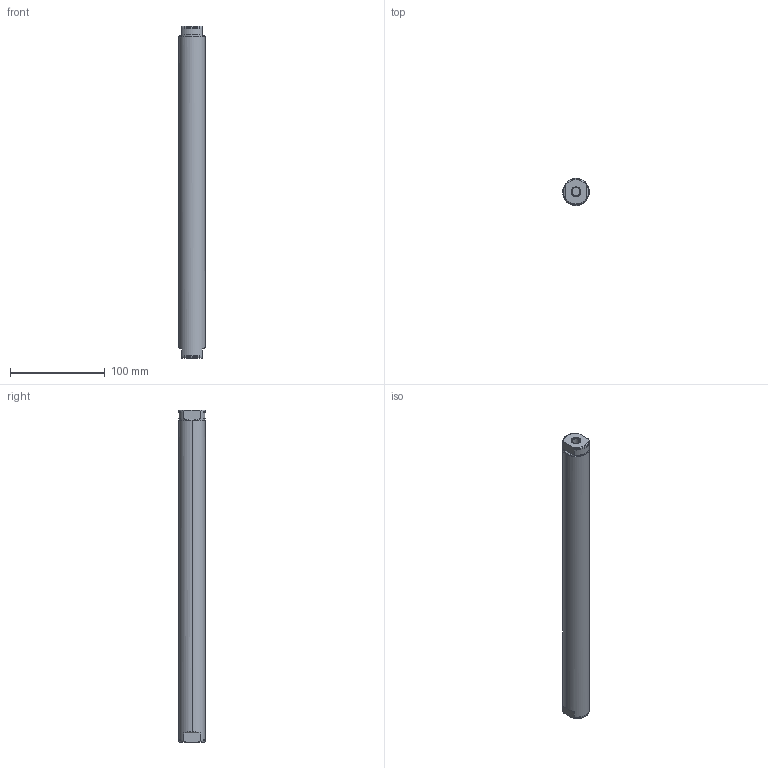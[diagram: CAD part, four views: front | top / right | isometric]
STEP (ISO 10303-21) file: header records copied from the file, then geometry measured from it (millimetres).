
FILE_DESCRIPTION (( 'STEP AP214' ), '1' );
FILE_NAME ('PL01-28x350!270.STEP', '2004-06-16T08:09:50', ( 'Mitarbeiter' ), ( 'Firma' ), 'SwSTEP 2.0', 'SolidWorks 2001287', '' );
FILE_SCHEMA (( 'AUTOMOTIVE_DESIGN' ));
Length unit declared in the file: millimetre
Products named in the file (1): PL01-28x350!270
Bounding box: 28 x 28 x 350 mm (x, y, z)
Volume: 212113.5 mm3; surface area: 32744.4 mm2
Topology: 1 solids, 1 shells, 41 faces, 104 edges, 68 vertices
Faces by surface type: plane 15, cylinder 10, torus 8, cone 8
Entity records: 1353 total; most frequent: CARTESIAN_POINT 374, ORIENTED_EDGE 208, DIRECTION 192, EDGE_CURVE 104, AXIS2_PLACEMENT_3D 78, VERTEX_POINT 68, EDGE_LOOP 44, ADVANCED_FACE 41
